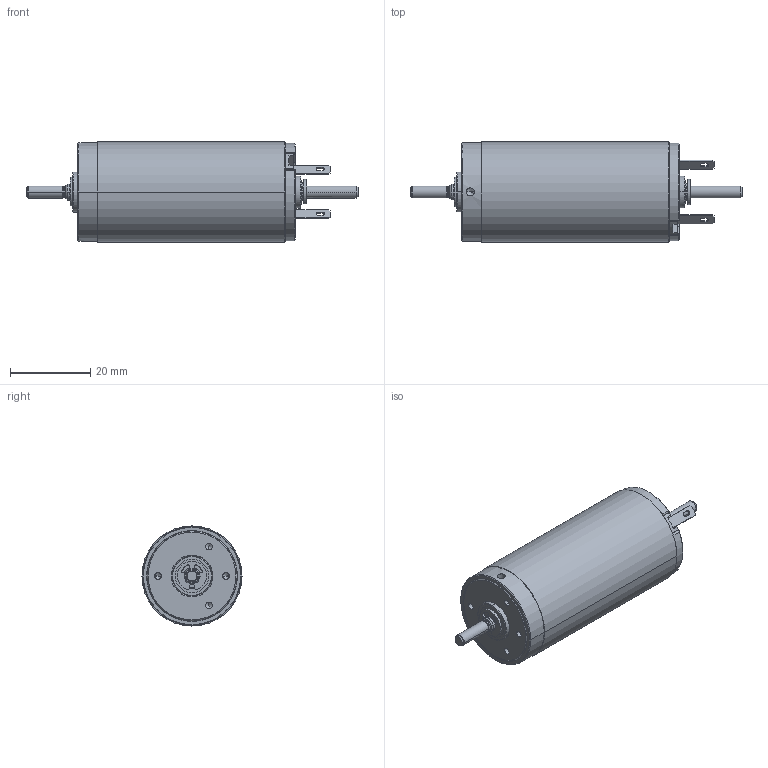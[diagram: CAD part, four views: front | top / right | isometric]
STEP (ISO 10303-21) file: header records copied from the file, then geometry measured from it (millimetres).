
FILE_DESCRIPTION((''),'2;1');
FILE_NAME('118740_RE13_EB_1_2W_SL_1WE','2016-10-03T',('mmagvisi'),(''),'CREO PARAMETRIC BY PTC INC, 2016050','CREO PARAMETRIC BY PTC INC, 2016050','');
FILE_SCHEMA(('CONFIG_CONTROL_DESIGN'));
Length unit declared in the file: millimetre
Products named in the file (1): 118740_RE13_EB_1_2W_SL_1WE
Bounding box: 83 x 25.03 x 25.03 mm (x, y, z)
Volume: 26827 mm3; surface area: 6901.1 mm2
Topology: 2 solids, 2 shells, 426 faces, 1142 edges, 725 vertices
Faces by surface type: plane 176, cylinder 161, cone 40, torus 33, bspline 16
Entity records: 18851 total; most frequent: CARTESIAN_POINT 3060, DIRECTION 2387, ORIENTED_EDGE 2260, PRESENTATION_STYLE_ASSIGNMENT 1310, STYLED_ITEM 1132, CURVE_STYLE 1130, EDGE_CURVE 1130, AXIS2_PLACEMENT_3D 905
